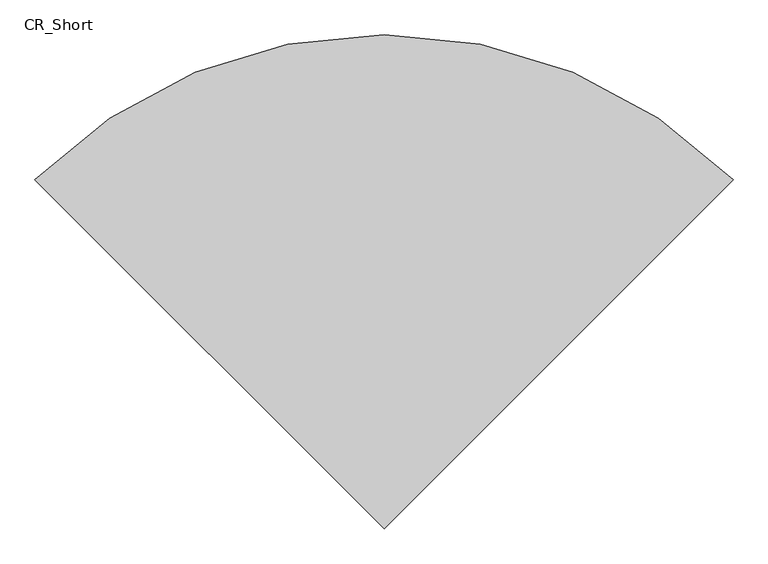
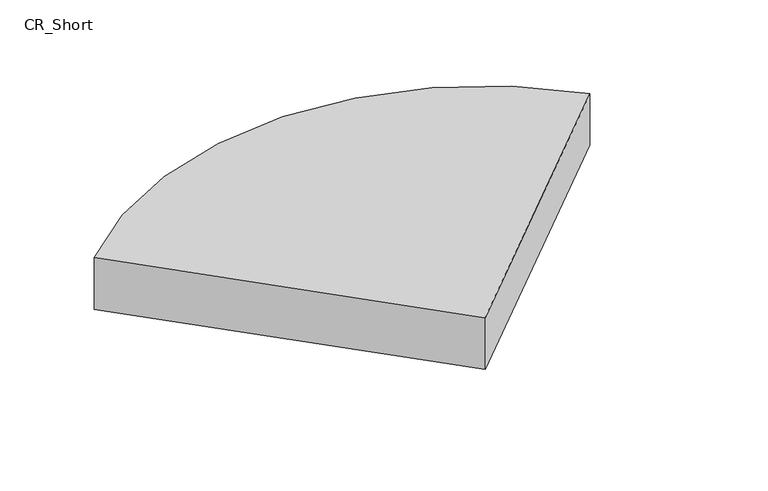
"""IFC4 building model written with IfcOpenShell, lengths in millimetres: furniture geometry, Memo_Candy_Table_Corner : CR_Short."""

from ifc_helpers import new_model, si_unit, point, frame, frame_2d, origin, origin_with_axes, place, context, project, spatial, polyline, circle_curve, trimmed, segment, composite_curve, outline, extrude, source, transform, mapped, element, save


def cr_short_cb8f5fb0(model_context):
    return source(origin(), model_context, "Body", "SweptSolid", [
        extrude(outline(composite_curve([segment(trimmed(circle_curve(frame_2d((-457.8390632, 156.5718805)), 14.2875), [point((-443.5515632, 156.5718805))], [point((-472.1265632, 156.5718805))], False, "CARTESIAN"), True, "CONTINUOUS"), segment(trimmed(circle_curve(frame_2d((-457.8390632, 156.5718805)), 14.2875), [point((-472.1265632, 156.5718805))], [point((-443.5515632, 156.5718805))], False, "CARTESIAN"), True, "CONTINUOUS")], self_intersect=False)), origin_with_axes(), (0.0, 0.0, 1.0), 10.2362),
        extrude(outline(composite_curve([segment(trimmed(circle_curve(frame_2d((0.0, -323.85)), 14.2875), [point((14.2875, -323.85))], [point((-14.2875, -323.85))], False, "CARTESIAN"), True, "CONTINUOUS"), segment(trimmed(circle_curve(frame_2d((0.0, -323.85)), 14.2875), [point((-14.2875, -323.85))], [point((14.2875, -323.85))], False, "CARTESIAN"), True, "CONTINUOUS")], self_intersect=False)), origin_with_axes(), (0.0, 0.0, 1.0), 10.2362),
        extrude(outline(composite_curve([segment(trimmed(circle_curve(frame_2d((457.8390632, 156.5718805)), 14.2875), [point((472.1265632, 156.5718805))], [point((443.5515632, 156.5718805))], False, "CARTESIAN"), True, "CONTINUOUS"), segment(trimmed(circle_curve(frame_2d((457.8390632, 156.5718805)), 14.2875), [point((443.5515632, 156.5718805))], [point((472.1265632, 156.5718805))], False, "CARTESIAN"), True, "CONTINUOUS")], self_intersect=False)), origin_with_axes(), (0.0, 0.0, 1.0), 10.2362),
        extrude(outline(composite_curve([segment(polyline([(547.7956234, 147.7456234), (0.0, -400.05), (-547.7956234, 147.7456234)]), True, "CONTINUOUS"), segment(trimmed(circle_curve(frame_2d((0.0, -400.05)), 774.7), [point((-547.7956234, 147.7456234))], [point((547.7956234, 147.7456234))], False, "CARTESIAN"), True, "CONTINUOUS")], self_intersect=False)), frame((0.0, 0.0, 10.2362), z_axis=(0.0, 0.0, 1.0), x_axis=(1.0, 0.0, 0.0)), (0.0, 0.0, 1.0), 120.65),
    ])


if __name__ == "__main__":
    model = new_model("IFC4")
    model_context = context("Model", 3, world=origin())
    ifc_project = project(units=[si_unit("LENGTHUNIT", "METRE", prefix="MILLI")], contexts=[model_context])
    site = spatial("IfcSite", under=ifc_project)
    building = spatial("IfcBuilding", under=site)
    placement = place(None, origin())
    cr_short_shape = cr_short_cb8f5fb0(model_context)
    element("IfcFurniture", 1, ObjectType="Memo_Candy_Table_Corner : CR_Short", at=placement, inside=building, context=model_context, shape_type="MappedRepresentation", body=[
        mapped(cr_short_shape, transform((0.0, 0.0, 0.0), x_axis=(1.0, 0.0, 0.0), y_axis=(0.0, 1.0, 0.0), z_axis=(0.0, 0.0, 1.0))),
    ])
    save(model, "model.ifc")
